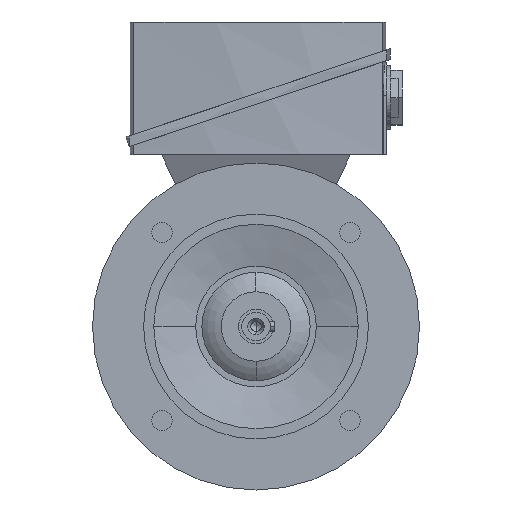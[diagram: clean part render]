
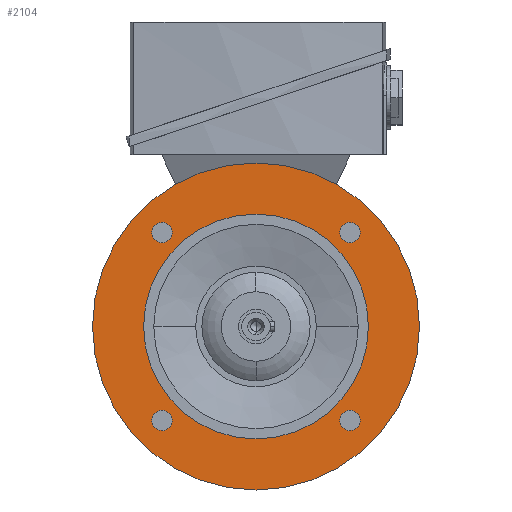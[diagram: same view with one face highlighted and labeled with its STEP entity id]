
A CAD part, left-side view. The second image highlights one B-rep face of the part: STEP entity #2104.
In plain terms, the highlighted planar face has unit normal (-1, 0, 0).
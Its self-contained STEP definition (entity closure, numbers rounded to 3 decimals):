
#2104=ADVANCED_FACE('',(#4271,#4272,#4273,#4274,#4275,#4276),#4277,.T.);
#4271=FACE_BOUND('',#6436,.T.);
#4272=FACE_BOUND('',#6437,.T.);
#4273=FACE_BOUND('',#6438,.T.);
#4274=FACE_BOUND('',#6439,.T.);
#4275=FACE_OUTER_BOUND('',#6440,.T.);
#4276=FACE_BOUND('',#6441,.T.);
#4277=PLANE('',#6442);
#6436=EDGE_LOOP('',(#12924,#12925));
#6437=EDGE_LOOP('',(#12926,#12927));
#6438=EDGE_LOOP('',(#12928,#12929));
#6439=EDGE_LOOP('',(#12930,#12931));
#6440=EDGE_LOOP('',(#12932,#12933));
#6441=EDGE_LOOP('',(#12934,#12935));
#6442=AXIS2_PLACEMENT_3D('',#12936,#12937,#12938);
#12924=ORIENTED_EDGE('',*,*,#15474,.T.);
#12925=ORIENTED_EDGE('',*,*,#12999,.T.);
#12926=ORIENTED_EDGE('',*,*,#15476,.T.);
#12927=ORIENTED_EDGE('',*,*,#12994,.T.);
#12928=ORIENTED_EDGE('',*,*,#15478,.T.);
#12929=ORIENTED_EDGE('',*,*,#12989,.T.);
#12930=ORIENTED_EDGE('',*,*,#15480,.T.);
#12931=ORIENTED_EDGE('',*,*,#12984,.T.);
#12932=ORIENTED_EDGE('',*,*,#12958,.F.);
#12933=ORIENTED_EDGE('',*,*,#15510,.F.);
#12934=ORIENTED_EDGE('',*,*,#12965,.T.);
#12935=ORIENTED_EDGE('',*,*,#15508,.T.);
#12936=CARTESIAN_POINT('',(-23.0,67.5,0.0));
#12937=DIRECTION('',(-1.0,0.0,0.0));
#12938=DIRECTION('',(0.0,-1.0,0.0));
#12958=EDGE_CURVE('',#15515,#15518,#15519,.T.);
#12965=EDGE_CURVE('',#15525,#15529,#15531,.T.);
#12984=EDGE_CURVE('',#15564,#15561,#15565,.T.);
#12989=EDGE_CURVE('',#15573,#15570,#15574,.T.);
#12994=EDGE_CURVE('',#15582,#15579,#15583,.T.);
#12999=EDGE_CURVE('',#15591,#15588,#15592,.T.);
#15474=EDGE_CURVE('',#15588,#15591,#19265,.T.);
#15476=EDGE_CURVE('',#15579,#15582,#19267,.T.);
#15478=EDGE_CURVE('',#15570,#15573,#19269,.T.);
#15480=EDGE_CURVE('',#15561,#15564,#19271,.T.);
#15508=EDGE_CURVE('',#15529,#15525,#19299,.T.);
#15510=EDGE_CURVE('',#15518,#15515,#19301,.T.);
#15515=VERTEX_POINT('',#19306);
#15518=VERTEX_POINT('',#19310);
#15519=CIRCLE('',#19311,80.0);
#15525=VERTEX_POINT('',#19318);
#15529=VERTEX_POINT('',#19323);
#15531=CIRCLE('',#19326,55.0);
#15561=VERTEX_POINT('',#19360);
#15564=VERTEX_POINT('',#19364);
#15565=CIRCLE('',#19365,5.0);
#15570=VERTEX_POINT('',#19371);
#15573=VERTEX_POINT('',#19375);
#15574=CIRCLE('',#19376,5.0);
#15579=VERTEX_POINT('',#19382);
#15582=VERTEX_POINT('',#19386);
#15583=CIRCLE('',#19387,5.0);
#15588=VERTEX_POINT('',#19393);
#15591=VERTEX_POINT('',#19397);
#15592=CIRCLE('',#19398,5.0);
#19265=CIRCLE('',#29740,5.0);
#19267=CIRCLE('',#29742,5.0);
#19269=CIRCLE('',#29744,5.0);
#19271=CIRCLE('',#29746,5.0);
#19299=CIRCLE('',#29788,55.0);
#19301=CIRCLE('',#29790,80.0);
#19306=CARTESIAN_POINT('',(-23.0,80.0,0.0));
#19310=CARTESIAN_POINT('',(-23.0,-80.0,0.));
#19311=AXIS2_PLACEMENT_3D('',#29795,#29796,#29797);
#19318=CARTESIAN_POINT('',(-23.0,55.0,0.0));
#19323=CARTESIAN_POINT('',(-23.0,-55.0,0.));
#19326=AXIS2_PLACEMENT_3D('',#29807,#29808,#29809);
#19360=CARTESIAN_POINT('',(-23.0,-49.497,49.497));
#19364=CARTESIAN_POINT('',(-23.0,-42.426,42.426));
#19365=AXIS2_PLACEMENT_3D('',#29842,#29843,#29844);
#19371=CARTESIAN_POINT('',(-23.0,49.497,49.497));
#19375=CARTESIAN_POINT('',(-23.0,42.426,42.426));
#19376=AXIS2_PLACEMENT_3D('',#29850,#29851,#29852);
#19382=CARTESIAN_POINT('',(-23.0,49.497,-49.497));
#19386=CARTESIAN_POINT('',(-23.0,42.426,-42.426));
#19387=AXIS2_PLACEMENT_3D('',#29858,#29859,#29860);
#19393=CARTESIAN_POINT('',(-23.0,-49.497,-49.497));
#19397=CARTESIAN_POINT('',(-23.0,-42.426,-42.426));
#19398=AXIS2_PLACEMENT_3D('',#29866,#29867,#29868);
#29740=AXIS2_PLACEMENT_3D('',#32127,#32128,#32129);
#29742=AXIS2_PLACEMENT_3D('',#32130,#32131,#32132);
#29744=AXIS2_PLACEMENT_3D('',#32133,#32134,#32135);
#29746=AXIS2_PLACEMENT_3D('',#32136,#32137,#32138);
#29788=AXIS2_PLACEMENT_3D('',#32161,#32162,#32163);
#29790=AXIS2_PLACEMENT_3D('',#32164,#32165,#32166);
#29795=CARTESIAN_POINT('',(-23.0,0.0,0.0));
#29796=DIRECTION('',(1.0,0.0,0.0));
#29797=DIRECTION('',(0.0,1.0,0.0));
#29807=CARTESIAN_POINT('',(-23.0,0.0,0.0));
#29808=DIRECTION('',(1.0,0.0,0.0));
#29809=DIRECTION('',(0.0,1.0,0.0));
#29842=CARTESIAN_POINT('',(-23.0,-45.962,45.962));
#29843=DIRECTION('',(1.0,0.0,-0.0));
#29844=DIRECTION('',(0.0,-0.707,0.707));
#29850=CARTESIAN_POINT('',(-23.0,45.962,45.962));
#29851=DIRECTION('',(1.0,0.0,-0.0));
#29852=DIRECTION('',(0.0,0.707,0.707));
#29858=CARTESIAN_POINT('',(-23.0,45.962,-45.962));
#29859=DIRECTION('',(1.0,-0.0,0.0));
#29860=DIRECTION('',(0.0,0.707,-0.707));
#29866=CARTESIAN_POINT('',(-23.0,-45.962,-45.962));
#29867=DIRECTION('',(1.0,0.0,0.0));
#29868=DIRECTION('',(0.0,-0.707,-0.707));
#32127=CARTESIAN_POINT('',(-23.0,-45.962,-45.962));
#32128=DIRECTION('',(1.0,0.0,0.0));
#32129=DIRECTION('',(0.0,-0.707,-0.707));
#32130=CARTESIAN_POINT('',(-23.0,45.962,-45.962));
#32131=DIRECTION('',(1.0,-0.0,0.0));
#32132=DIRECTION('',(0.0,0.707,-0.707));
#32133=CARTESIAN_POINT('',(-23.0,45.962,45.962));
#32134=DIRECTION('',(1.0,0.0,-0.0));
#32135=DIRECTION('',(0.0,0.707,0.707));
#32136=CARTESIAN_POINT('',(-23.0,-45.962,45.962));
#32137=DIRECTION('',(1.0,0.0,-0.0));
#32138=DIRECTION('',(0.0,-0.707,0.707));
#32161=CARTESIAN_POINT('',(-23.0,0.0,0.0));
#32162=DIRECTION('',(1.0,0.0,0.0));
#32163=DIRECTION('',(0.0,1.0,0.0));
#32164=CARTESIAN_POINT('',(-23.0,0.0,0.0));
#32165=DIRECTION('',(1.0,0.0,0.0));
#32166=DIRECTION('',(0.0,1.0,0.0));
